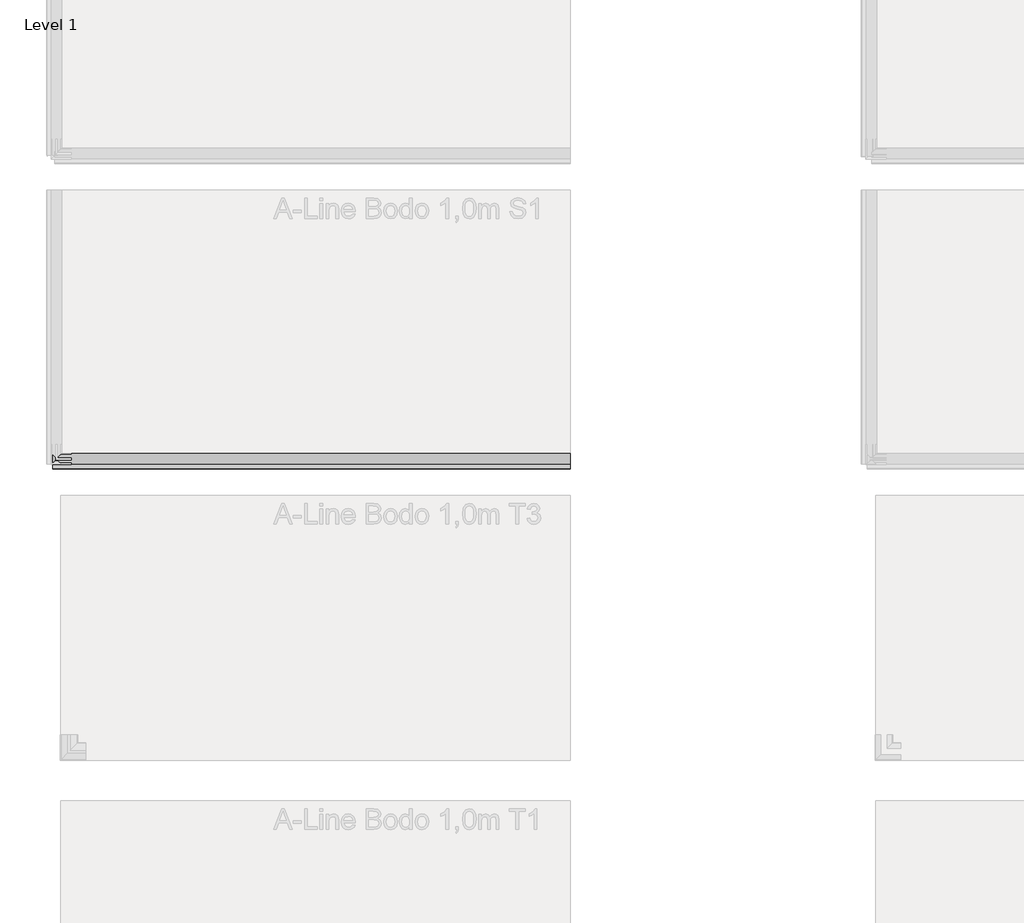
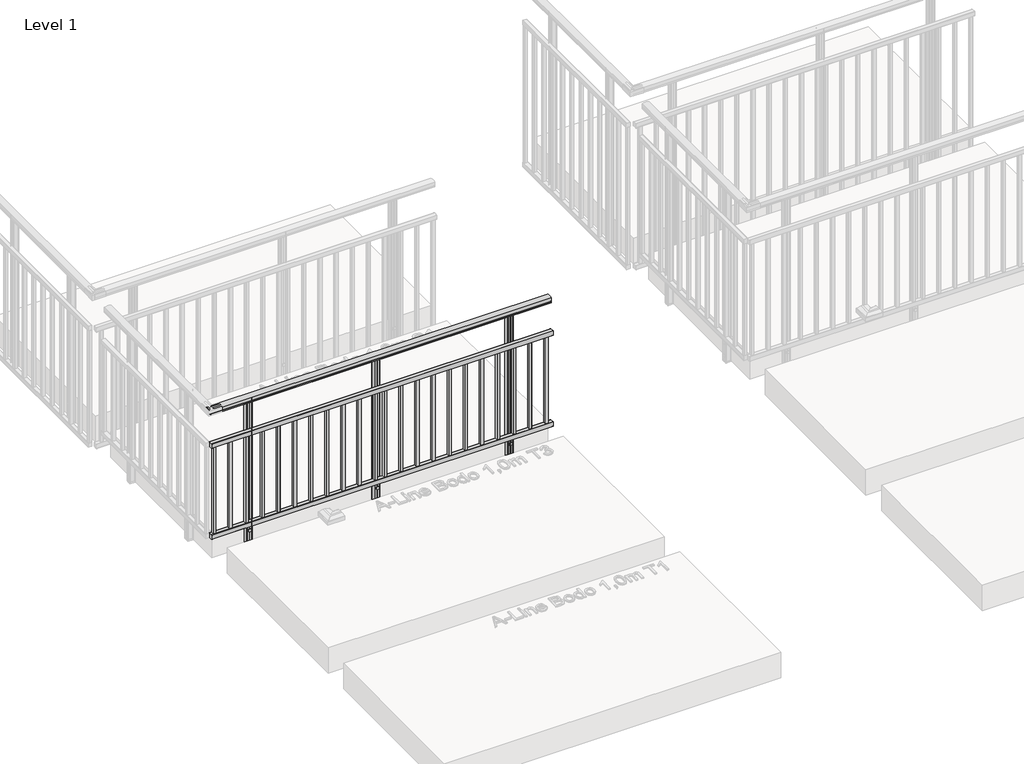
# One storey, part 2 of 66: 1 railing.
"""IFC4 building model written with IfcOpenShell, lengths in millimetres."""

from ifc_helpers import new_model, si_unit, point, frame, frame_2d, origin, place, context, project, spatial, polyline, circle_curve, trimmed, segment, composite_curve, outline, extrude, element, save

model = new_model("IFC4")

# Units and contexts
model_context = context("Model", 3, world=origin())
ifc_project = project(units=[si_unit("LENGTHUNIT", "METRE", prefix="MILLI")], contexts=[model_context])

# Site, building, storey
site = spatial("IfcSite", under=ifc_project)
building = spatial("IfcBuilding", under=site)
storey = spatial("IfcBuildingStorey", under=building, Name="Level 1", Elevation=0.0)

# Railing
placement = place(None, origin())
element("IfcRailing", 1, ObjectType="A-Line Bodo 1,0m S1", at=placement, inside=storey, context=model_context, shape_type="SweptSolid", body=[
    extrude(outline(composite_curve([segment(polyline([(-17565.1717719, 994.1390059), (-17565.1717719, 967.1990555), (-17565.7865549, 966.5842725), (-17565.1717719, 965.9694895), (-17565.1717719, 957.2498847), (-17566.9315805, 957.2498847), (-17566.9315805, 980.4998829), (-17613.9266266, 980.4998829), (-17613.9266266, 957.2498847), (-17615.7315795, 957.2498847), (-17615.7315795, 965.8194895), (-17615.1094985, 966.4415706), (-17615.6914302, 967.0235023), (-17615.6914302, 994.1342258)]), True, "CONTINUOUS"), segment(trimmed(circle_curve(frame_2d((-17590.4267322, 942.6785502)), 57.3235687), [point((-17615.6914302, 994.1342258))], [point((-17565.1717719, 994.1390059))], False, "CARTESIAN"), True, "CONTINUOUS")], self_intersect=False)), frame((4464.0547322, 0.0, 0.0), z_axis=(1.0, 0.0, 0.0), x_axis=(0.0, 1.0, 0.0)), (0.0, 0.0, 1.0), 2540.0),
    extrude(outline(composite_curve([segment(trimmed(circle_curve(frame_2d((-17638.2613559, 749.0)), 1.0), [point((-17639.2613559, 749.0))], [point((-17638.2613559, 750.0))], False, "CARTESIAN"), True, "CONTINUOUS"), segment(polyline([(-17638.2613559, 750.0), (-17611.1613559, 750.0)]), True, "CONTINUOUS"), segment(trimmed(circle_curve(frame_2d((-17611.1613559, 749.0)), 1.0), [point((-17611.1613559, 750.0))], [point((-17610.1613559, 749.0))], False, "CARTESIAN"), True, "CONTINUOUS"), segment(polyline([(-17610.1613559, 749.0), (-17610.1613559, 716.8)]), True, "CONTINUOUS"), segment(trimmed(circle_curve(frame_2d((-17611.1613559, 716.8)), 1.0), [point((-17610.1613559, 716.8))], [point((-17611.1613559, 715.8))], False, "CARTESIAN"), True, "CONTINUOUS"), segment(polyline([(-17611.1613559, 715.8), (-17638.2613559, 715.8)]), True, "CONTINUOUS"), segment(trimmed(circle_curve(frame_2d((-17638.2613559, 716.8)), 1.0), [point((-17638.2613559, 715.8))], [point((-17639.2613559, 716.8))], False, "CARTESIAN"), True, "CONTINUOUS"), segment(polyline([(-17639.2613559, 716.8), (-17639.2613559, 749.0)]), True, "CONTINUOUS")], self_intersect=False)), frame((4464.0547322, 0.0, 0.0), z_axis=(1.0, 0.0, 0.0), x_axis=(0.0, 1.0, 0.0)), (0.0, 0.0, 1.0), 2540.0),
    extrude(outline(composite_curve([segment(polyline([(-17638.2613559, 34.2), (-17611.1613559, 34.2)]), True, "CONTINUOUS"), segment(trimmed(circle_curve(frame_2d((-17611.1613559, 33.2)), 1.0), [point((-17611.1613559, 34.2))], [point((-17610.1613559, 33.2))], False, "CARTESIAN"), True, "CONTINUOUS"), segment(polyline([(-17610.1613559, 33.2), (-17610.1613559, 1.0)]), True, "CONTINUOUS"), segment(trimmed(circle_curve(frame_2d((-17611.1613559, 1.0)), 1.0), [point((-17610.1613559, 1.0))], [point((-17611.1613559, 0.0))], False, "CARTESIAN"), True, "CONTINUOUS"), segment(polyline([(-17611.1613559, 0.0), (-17638.2613559, 0.0)]), True, "CONTINUOUS"), segment(trimmed(circle_curve(frame_2d((-17638.2613559, 1.0)), 1.0), [point((-17638.2613559, 0.0))], [point((-17639.2613559, 1.0))], False, "CARTESIAN"), True, "CONTINUOUS"), segment(polyline([(-17639.2613559, 1.0), (-17639.2613559, 33.2)]), True, "CONTINUOUS"), segment(trimmed(circle_curve(frame_2d((-17638.2613559, 33.2)), 1.0), [point((-17639.2613559, 33.2))], [point((-17638.2613559, 34.2))], False, "CARTESIAN"), True, "CONTINUOUS")], self_intersect=False)), frame((4464.0547322, 0.0, 0.0), z_axis=(1.0, 0.0, 0.0), x_axis=(0.0, 1.0, 0.0)), (0.0, 0.0, 1.0), 2540.0),
    extrude(outline(polyline([(6949.0547322, -17634.7113559), (6949.0547322, -17614.7113559), (6969.0547322, -17614.7113559), (6969.0547322, -17634.7113559), (6949.0547322, -17634.7113559)]), holes=[polyline([(6951.0547322, -17632.7113559), (6967.0547322, -17632.7113559), (6967.0547322, -17616.7113559), (6951.0547322, -17616.7113559), (6951.0547322, -17632.7113559)])]), frame((0.0, 0.0, 34.0), z_axis=(0.0, 0.0, 1.0), x_axis=(1.0, 0.0, 0.0)), (0.0, 0.0, 1.0), 682.0),
    extrude(outline(polyline([(6829.0547322, -17634.7113559), (6829.0547322, -17614.7113559), (6849.0547322, -17614.7113559), (6849.0547322, -17634.7113559), (6829.0547322, -17634.7113559)]), holes=[polyline([(6831.0547322, -17632.7113559), (6847.0547322, -17632.7113559), (6847.0547322, -17616.7113559), (6831.0547322, -17616.7113559), (6831.0547322, -17632.7113559)])]), frame((0.0, 0.0, 34.0), z_axis=(0.0, 0.0, 1.0), x_axis=(1.0, 0.0, 0.0)), (0.0, 0.0, 1.0), 682.0),
    extrude(outline(polyline([(6709.0547322, -17634.7113559), (6709.0547322, -17614.7113559), (6729.0547322, -17614.7113559), (6729.0547322, -17634.7113559), (6709.0547322, -17634.7113559)]), holes=[polyline([(6711.0547322, -17632.7113559), (6727.0547322, -17632.7113559), (6727.0547322, -17616.7113559), (6711.0547322, -17616.7113559), (6711.0547322, -17632.7113559)])]), frame((0.0, 0.0, 34.0), z_axis=(0.0, 0.0, 1.0), x_axis=(1.0, 0.0, 0.0)), (0.0, 0.0, 1.0), 682.0),
    extrude(outline(polyline([(6589.0547322, -17634.7113559), (6589.0547322, -17614.7113559), (6609.0547322, -17614.7113559), (6609.0547322, -17634.7113559), (6589.0547322, -17634.7113559)]), holes=[polyline([(6591.0547322, -17632.7113559), (6607.0547322, -17632.7113559), (6607.0547322, -17616.7113559), (6591.0547322, -17616.7113559), (6591.0547322, -17632.7113559)])]), frame((0.0, 0.0, 34.0), z_axis=(0.0, 0.0, 1.0), x_axis=(1.0, 0.0, 0.0)), (0.0, 0.0, 1.0), 682.0),
    extrude(outline(polyline([(6469.0547322, -17634.7113559), (6469.0547322, -17614.7113559), (6489.0547322, -17614.7113559), (6489.0547322, -17634.7113559), (6469.0547322, -17634.7113559)]), holes=[polyline([(6471.0547322, -17632.7113559), (6487.0547322, -17632.7113559), (6487.0547322, -17616.7113559), (6471.0547322, -17616.7113559), (6471.0547322, -17632.7113559)])]), frame((0.0, 0.0, 34.0), z_axis=(0.0, 0.0, 1.0), x_axis=(1.0, 0.0, 0.0)), (0.0, 0.0, 1.0), 682.0),
    extrude(outline(polyline([(6349.0547322, -17634.7113559), (6349.0547322, -17614.7113559), (6369.0547322, -17614.7113559), (6369.0547322, -17634.7113559), (6349.0547322, -17634.7113559)]), holes=[polyline([(6351.0547322, -17632.7113559), (6367.0547322, -17632.7113559), (6367.0547322, -17616.7113559), (6351.0547322, -17616.7113559), (6351.0547322, -17632.7113559)])]), frame((0.0, 0.0, 34.0), z_axis=(0.0, 0.0, 1.0), x_axis=(1.0, 0.0, 0.0)), (0.0, 0.0, 1.0), 682.0),
    extrude(outline(polyline([(6229.0547322, -17634.7113559), (6229.0547322, -17614.7113559), (6249.0547322, -17614.7113559), (6249.0547322, -17634.7113559), (6229.0547322, -17634.7113559)]), holes=[polyline([(6231.0547322, -17632.7113559), (6247.0547322, -17632.7113559), (6247.0547322, -17616.7113559), (6231.0547322, -17616.7113559), (6231.0547322, -17632.7113559)])]), frame((0.0, 0.0, 34.0), z_axis=(0.0, 0.0, 1.0), x_axis=(1.0, 0.0, 0.0)), (0.0, 0.0, 1.0), 682.0),
    extrude(outline(polyline([(6109.0547322, -17634.7113559), (6109.0547322, -17614.7113559), (6129.0547322, -17614.7113559), (6129.0547322, -17634.7113559), (6109.0547322, -17634.7113559)]), holes=[polyline([(6111.0547322, -17632.7113559), (6127.0547322, -17632.7113559), (6127.0547322, -17616.7113559), (6111.0547322, -17616.7113559), (6111.0547322, -17632.7113559)])]), frame((0.0, 0.0, 34.0), z_axis=(0.0, 0.0, 1.0), x_axis=(1.0, 0.0, 0.0)), (0.0, 0.0, 1.0), 682.0),
    extrude(outline(polyline([(5989.0547322, -17634.7113559), (5989.0547322, -17614.7113559), (6009.0547322, -17614.7113559), (6009.0547322, -17634.7113559), (5989.0547322, -17634.7113559)]), holes=[polyline([(5991.0547322, -17632.7113559), (6007.0547322, -17632.7113559), (6007.0547322, -17616.7113559), (5991.0547322, -17616.7113559), (5991.0547322, -17632.7113559)])]), frame((0.0, 0.0, 34.0), z_axis=(0.0, 0.0, 1.0), x_axis=(1.0, 0.0, 0.0)), (0.0, 0.0, 1.0), 682.0),
    extrude(outline(polyline([(5869.0547322, -17634.7113559), (5869.0547322, -17614.7113559), (5889.0547322, -17614.7113559), (5889.0547322, -17634.7113559), (5869.0547322, -17634.7113559)]), holes=[polyline([(5871.0547322, -17632.7113559), (5887.0547322, -17632.7113559), (5887.0547322, -17616.7113559), (5871.0547322, -17616.7113559), (5871.0547322, -17632.7113559)])]), frame((0.0, 0.0, 34.0), z_axis=(0.0, 0.0, 1.0), x_axis=(1.0, 0.0, 0.0)), (0.0, 0.0, 1.0), 682.0),
    extrude(outline(polyline([(5749.0547322, -17634.7113559), (5749.0547322, -17614.7113559), (5769.0547322, -17614.7113559), (5769.0547322, -17634.7113559), (5749.0547322, -17634.7113559)]), holes=[polyline([(5751.0547322, -17632.7113559), (5767.0547322, -17632.7113559), (5767.0547322, -17616.7113559), (5751.0547322, -17616.7113559), (5751.0547322, -17632.7113559)])]), frame((0.0, 0.0, 34.0), z_axis=(0.0, 0.0, 1.0), x_axis=(1.0, 0.0, 0.0)), (0.0, 0.0, 1.0), 682.0),
    extrude(outline(polyline([(5679.0547322, -17634.7113559), (5679.0547322, -17614.7113559), (5699.0547322, -17614.7113559), (5699.0547322, -17634.7113559), (5679.0547322, -17634.7113559)]), holes=[polyline([(5681.0547322, -17632.7113559), (5697.0547322, -17632.7113559), (5697.0547322, -17616.7113559), (5681.0547322, -17616.7113559), (5681.0547322, -17632.7113559)])]), frame((0.0, 0.0, 34.0), z_axis=(0.0, 0.0, 1.0), x_axis=(1.0, 0.0, 0.0)), (0.0, 0.0, 1.0), 682.0),
    extrude(outline(polyline([(5559.0547322, -17634.7113559), (5559.0547322, -17614.7113559), (5579.0547322, -17614.7113559), (5579.0547322, -17634.7113559), (5559.0547322, -17634.7113559)]), holes=[polyline([(5561.0547322, -17632.7113559), (5577.0547322, -17632.7113559), (5577.0547322, -17616.7113559), (5561.0547322, -17616.7113559), (5561.0547322, -17632.7113559)])]), frame((0.0, 0.0, 34.0), z_axis=(0.0, 0.0, 1.0), x_axis=(1.0, 0.0, 0.0)), (0.0, 0.0, 1.0), 682.0),
    extrude(outline(polyline([(5439.0547322, -17634.7113559), (5439.0547322, -17614.7113559), (5459.0547322, -17614.7113559), (5459.0547322, -17634.7113559), (5439.0547322, -17634.7113559)]), holes=[polyline([(5441.0547322, -17632.7113559), (5457.0547322, -17632.7113559), (5457.0547322, -17616.7113559), (5441.0547322, -17616.7113559), (5441.0547322, -17632.7113559)])]), frame((0.0, 0.0, 34.0), z_axis=(0.0, 0.0, 1.0), x_axis=(1.0, 0.0, 0.0)), (0.0, 0.0, 1.0), 682.0),
    extrude(outline(polyline([(5319.0547322, -17634.7113559), (5319.0547322, -17614.7113559), (5339.0547322, -17614.7113559), (5339.0547322, -17634.7113559), (5319.0547322, -17634.7113559)]), holes=[polyline([(5321.0547322, -17632.7113559), (5337.0547322, -17632.7113559), (5337.0547322, -17616.7113559), (5321.0547322, -17616.7113559), (5321.0547322, -17632.7113559)])]), frame((0.0, 0.0, 34.0), z_axis=(0.0, 0.0, 1.0), x_axis=(1.0, 0.0, 0.0)), (0.0, 0.0, 1.0), 682.0),
    extrude(outline(polyline([(5199.0547322, -17634.7113559), (5199.0547322, -17614.7113559), (5219.0547322, -17614.7113559), (5219.0547322, -17634.7113559), (5199.0547322, -17634.7113559)]), holes=[polyline([(5201.0547322, -17632.7113559), (5217.0547322, -17632.7113559), (5217.0547322, -17616.7113559), (5201.0547322, -17616.7113559), (5201.0547322, -17632.7113559)])]), frame((0.0, 0.0, 34.0), z_axis=(0.0, 0.0, 1.0), x_axis=(1.0, 0.0, 0.0)), (0.0, 0.0, 1.0), 682.0),
    extrude(outline(polyline([(5079.0547322, -17634.7113559), (5079.0547322, -17614.7113559), (5099.0547322, -17614.7113559), (5099.0547322, -17634.7113559), (5079.0547322, -17634.7113559)]), holes=[polyline([(5081.0547322, -17632.7113559), (5097.0547322, -17632.7113559), (5097.0547322, -17616.7113559), (5081.0547322, -17616.7113559), (5081.0547322, -17632.7113559)])]), frame((0.0, 0.0, 34.0), z_axis=(0.0, 0.0, 1.0), x_axis=(1.0, 0.0, 0.0)), (0.0, 0.0, 1.0), 682.0),
    extrude(outline(polyline([(4959.0547322, -17634.7113559), (4959.0547322, -17614.7113559), (4979.0547322, -17614.7113559), (4979.0547322, -17634.7113559), (4959.0547322, -17634.7113559)]), holes=[polyline([(4961.0547322, -17632.7113559), (4977.0547322, -17632.7113559), (4977.0547322, -17616.7113559), (4961.0547322, -17616.7113559), (4961.0547322, -17632.7113559)])]), frame((0.0, 0.0, 34.0), z_axis=(0.0, 0.0, 1.0), x_axis=(1.0, 0.0, 0.0)), (0.0, 0.0, 1.0), 682.0),
    extrude(outline(polyline([(4839.0547322, -17634.7113559), (4839.0547322, -17614.7113559), (4859.0547322, -17614.7113559), (4859.0547322, -17634.7113559), (4839.0547322, -17634.7113559)]), holes=[polyline([(4841.0547322, -17632.7113559), (4857.0547322, -17632.7113559), (4857.0547322, -17616.7113559), (4841.0547322, -17616.7113559), (4841.0547322, -17632.7113559)])]), frame((0.0, 0.0, 34.0), z_axis=(0.0, 0.0, 1.0), x_axis=(1.0, 0.0, 0.0)), (0.0, 0.0, 1.0), 682.0),
    extrude(outline(polyline([(4719.0547322, -17634.7113559), (4719.0547322, -17614.7113559), (4739.0547322, -17614.7113559), (4739.0547322, -17634.7113559), (4719.0547322, -17634.7113559)]), holes=[polyline([(4721.0547322, -17632.7113559), (4737.0547322, -17632.7113559), (4737.0547322, -17616.7113559), (4721.0547322, -17616.7113559), (4721.0547322, -17632.7113559)])]), frame((0.0, 0.0, 34.0), z_axis=(0.0, 0.0, 1.0), x_axis=(1.0, 0.0, 0.0)), (0.0, 0.0, 1.0), 682.0),
    extrude(outline(polyline([(4599.0547322, -17634.7113559), (4599.0547322, -17614.7113559), (4619.0547322, -17614.7113559), (4619.0547322, -17634.7113559), (4599.0547322, -17634.7113559)]), holes=[polyline([(4601.0547322, -17632.7113559), (4617.0547322, -17632.7113559), (4617.0547322, -17616.7113559), (4601.0547322, -17616.7113559), (4601.0547322, -17632.7113559)])]), frame((0.0, 0.0, 34.0), z_axis=(0.0, 0.0, 1.0), x_axis=(1.0, 0.0, 0.0)), (0.0, 0.0, 1.0), 682.0),
    extrude(outline(polyline([(4479.0547322, -17634.7113559), (4479.0547322, -17614.7113559), (4499.0547322, -17614.7113559), (4499.0547322, -17634.7113559), (4479.0547322, -17634.7113559)]), holes=[polyline([(4481.0547322, -17632.7113559), (4497.0547322, -17632.7113559), (4497.0547322, -17616.7113559), (4481.0547322, -17616.7113559), (4481.0547322, -17632.7113559)])]), frame((0.0, 0.0, 34.0), z_axis=(0.0, 0.0, 1.0), x_axis=(1.0, 0.0, 0.0)), (0.0, 0.0, 1.0), 682.0),
    extrude(outline(composite_curve([segment(polyline([(5714.8575193, -17569.7113559), (5731.8808192, -17569.7113559)]), True, "CONTINUOUS"), segment(trimmed(circle_curve(frame_2d((5731.8808192, -17571.885269)), 2.173913), [point((5731.8808192, -17569.7113559))], [point((5734.0547322, -17571.885269))], False, "CARTESIAN"), True, "CONTINUOUS"), segment(polyline([(5734.0547322, -17571.885269), (5734.0547322, -17607.5374429)]), True, "CONTINUOUS"), segment(trimmed(circle_curve(frame_2d((5731.8808192, -17607.5374429)), 2.173913), [point((5734.0547322, -17607.5374429))], [point((5731.8808192, -17609.7113559))], False, "CARTESIAN"), True, "CONTINUOUS"), segment(polyline([(5731.8808192, -17609.7113559), (5714.8225694, -17609.676406), (5714.0547322, -17608.9085689), (5713.2868951, -17609.676406), (5696.2286453, -17609.7113559)]), True, "CONTINUOUS"), segment(trimmed(circle_curve(frame_2d((5696.2286453, -17607.5374429)), 2.173913), [point((5696.2286453, -17609.7113559))], [point((5694.0547322, -17607.5374429))], False, "CARTESIAN"), True, "CONTINUOUS"), segment(polyline([(5694.0547322, -17607.5374429), (5694.0547322, -17571.885269)]), True, "CONTINUOUS"), segment(trimmed(circle_curve(frame_2d((5696.2286453, -17571.885269)), 2.173913), [point((5694.0547322, -17571.885269))], [point((5696.2286452, -17569.7113559))], False, "CARTESIAN"), True, "CONTINUOUS"), segment(polyline([(5696.2286452, -17569.7113559), (5713.2868951, -17569.7463058), (5714.0547322, -17570.5141429), (5714.8575193, -17569.7113559)]), True, "CONTINUOUS")], self_intersect=False)), frame((0.0, 0.0, -200.0), z_axis=(0.0, 0.0, 1.0), x_axis=(1.0, 0.0, 0.0)), (0.0, 0.0, 1.0), 10.0),
    extrude(outline(composite_curve([segment(trimmed(circle_curve(frame_2d((5696.2286453, -17571.885269)), 2.173913), [point((5694.0547322, -17571.885269))], [point((5696.2286453, -17569.7113559))], False, "CARTESIAN"), True, "CONTINUOUS"), segment(polyline([(5696.2286453, -17569.7113559), (5713.2868951, -17569.7463058), (5714.185167, -17570.1143102), (5714.9530042, -17569.7113559), (5731.8808192, -17569.7113559)]), True, "CONTINUOUS"), segment(trimmed(circle_curve(frame_2d((5731.8808192, -17571.885269)), 2.173913), [point((5731.8808192, -17569.7113559))], [point((5734.0547322, -17571.885269))], False, "CARTESIAN"), True, "CONTINUOUS"), segment(polyline([(5734.0547322, -17571.885269), (5734.0547322, -17607.5374429)]), True, "CONTINUOUS"), segment(trimmed(circle_curve(frame_2d((5731.8808192, -17607.5374429)), 2.173913), [point((5734.0547322, -17607.5374429))], [point((5731.8808192, -17609.7113559))], False, "CARTESIAN"), True, "CONTINUOUS"), segment(polyline([(5731.8808192, -17609.7113559), (5714.8225694, -17609.676406), (5714.0547322, -17608.9085689), (5713.2868951, -17609.676406), (5696.2286453, -17609.7113559)]), True, "CONTINUOUS"), segment(trimmed(circle_curve(frame_2d((5696.2286453, -17607.5374429)), 2.173913), [point((5696.2286453, -17609.7113559))], [point((5694.0547322, -17607.5374429))], False, "CARTESIAN"), True, "CONTINUOUS"), segment(polyline([(5694.0547322, -17607.5374429), (5694.0547322, -17571.885269)]), True, "CONTINUOUS")], self_intersect=False), holes=[composite_curve([segment(polyline([(5697.5329931, -17574.059182), (5697.5329931, -17605.3635298)]), True, "CONTINUOUS"), segment(trimmed(circle_curve(frame_2d((5698.4025583, -17605.3635298)), 0.8695652), [point((5697.5329931, -17605.3635298))], [point((5698.4025583, -17606.233095))], True, "CARTESIAN"), True, "CONTINUOUS"), segment(polyline([(5698.4025583, -17606.233095), (5729.7069062, -17606.233095)]), True, "CONTINUOUS"), segment(trimmed(circle_curve(frame_2d((5729.7069062, -17605.3635298)), 0.8695652), [point((5729.7069062, -17606.233095))], [point((5730.5764714, -17605.3635298))], True, "CARTESIAN"), True, "CONTINUOUS"), segment(polyline([(5730.5764714, -17605.3635298), (5730.5764714, -17574.059182)]), True, "CONTINUOUS"), segment(trimmed(circle_curve(frame_2d((5729.7069062, -17574.059182)), 0.8695652), [point((5730.5764714, -17574.059182))], [point((5729.7069062, -17573.1896168))], True, "CARTESIAN"), True, "CONTINUOUS"), segment(polyline([(5729.7069062, -17573.1896168), (5698.4025583, -17573.1896168)]), True, "CONTINUOUS"), segment(trimmed(circle_curve(frame_2d((5698.4025583, -17574.059182)), 0.8695652), [point((5698.4025583, -17573.1896168))], [point((5697.5329931, -17574.059182))], True, "CARTESIAN"), True, "CONTINUOUS")], self_intersect=False)]), frame((0.0, 0.0, -190.0), z_axis=(0.0, 0.0, 1.0), x_axis=(1.0, 0.0, 0.0)), (0.0, 0.0, 1.0), 1170.0),
    extrude(outline(composite_curve([segment(trimmed(circle_curve(frame_2d((0.0, 12.0)), 12.0), [point((0.0, 23.9999999))], [point((0.0, 0.0))], False, "CARTESIAN"), True, "CONTINUOUS"), segment(trimmed(circle_curve(frame_2d((0.0, 12.0)), 12.0), [point((0.0, 0.0))], [point((0.0, 23.9999999))], False, "CARTESIAN"), True, "CONTINUOUS")], self_intersect=False)), frame((5702.0444554, -17612.7751851, -151.0), z_axis=(0.00040291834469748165, 0.9999999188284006, 0.0), x_axis=(0.0, 0.0, 1.0)), (0.0, 0.0, 1.0), 3.0757477),
    extrude(outline(composite_curve([segment(trimmed(circle_curve(frame_2d((0.0, 12.0)), 12.0), [point((0.0, 23.9999999))], [point((0.0, 0.0))], False, "CARTESIAN"), True, "CONTINUOUS"), segment(trimmed(circle_curve(frame_2d((0.0, 12.0)), 12.0), [point((0.0, 0.0))], [point((0.0, 23.9999999))], False, "CARTESIAN"), True, "CONTINUOUS")], self_intersect=False)), frame((5702.0444554, -17612.7751851, -50.0), z_axis=(0.00040291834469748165, 0.9999999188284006, 0.0), x_axis=(0.0, 0.0, 1.0)), (0.0, 0.0, 1.0), 3.0757477),
    extrude(outline(composite_curve([segment(polyline([(6704.8575193, -17569.7113559), (6721.8808192, -17569.7113559)]), True, "CONTINUOUS"), segment(trimmed(circle_curve(frame_2d((6721.8808192, -17571.885269)), 2.173913), [point((6721.8808192, -17569.7113559))], [point((6724.0547322, -17571.885269))], False, "CARTESIAN"), True, "CONTINUOUS"), segment(polyline([(6724.0547322, -17571.885269), (6724.0547322, -17607.5374429)]), True, "CONTINUOUS"), segment(trimmed(circle_curve(frame_2d((6721.8808192, -17607.5374429)), 2.173913), [point((6724.0547322, -17607.5374429))], [point((6721.8808192, -17609.7113559))], False, "CARTESIAN"), True, "CONTINUOUS"), segment(polyline([(6721.8808192, -17609.7113559), (6704.8225694, -17609.676406), (6704.0547322, -17608.9085689), (6703.2868951, -17609.676406), (6686.2286453, -17609.7113559)]), True, "CONTINUOUS"), segment(trimmed(circle_curve(frame_2d((6686.2286453, -17607.5374429)), 2.173913), [point((6686.2286453, -17609.7113559))], [point((6684.0547322, -17607.5374429))], False, "CARTESIAN"), True, "CONTINUOUS"), segment(polyline([(6684.0547322, -17607.5374429), (6684.0547322, -17571.885269)]), True, "CONTINUOUS"), segment(trimmed(circle_curve(frame_2d((6686.2286453, -17571.885269)), 2.173913), [point((6684.0547322, -17571.885269))], [point((6686.2286452, -17569.7113559))], False, "CARTESIAN"), True, "CONTINUOUS"), segment(polyline([(6686.2286452, -17569.7113559), (6703.2868951, -17569.7463058), (6704.0547322, -17570.5141429), (6704.8575193, -17569.7113559)]), True, "CONTINUOUS")], self_intersect=False)), frame((0.0, 0.0, -200.0), z_axis=(0.0, 0.0, 1.0), x_axis=(1.0, 0.0, 0.0)), (0.0, 0.0, 1.0), 10.0),
    extrude(outline(composite_curve([segment(trimmed(circle_curve(frame_2d((6686.2286453, -17571.885269)), 2.173913), [point((6684.0547322, -17571.885269))], [point((6686.2286453, -17569.7113559))], False, "CARTESIAN"), True, "CONTINUOUS"), segment(polyline([(6686.2286453, -17569.7113559), (6703.2868951, -17569.7463058), (6704.185167, -17570.1143102), (6704.9530042, -17569.7113559), (6721.8808192, -17569.7113559)]), True, "CONTINUOUS"), segment(trimmed(circle_curve(frame_2d((6721.8808192, -17571.885269)), 2.173913), [point((6721.8808192, -17569.7113559))], [point((6724.0547322, -17571.885269))], False, "CARTESIAN"), True, "CONTINUOUS"), segment(polyline([(6724.0547322, -17571.885269), (6724.0547322, -17607.5374429)]), True, "CONTINUOUS"), segment(trimmed(circle_curve(frame_2d((6721.8808192, -17607.5374429)), 2.173913), [point((6724.0547322, -17607.5374429))], [point((6721.8808192, -17609.7113559))], False, "CARTESIAN"), True, "CONTINUOUS"), segment(polyline([(6721.8808192, -17609.7113559), (6704.8225694, -17609.676406), (6704.0547322, -17608.9085689), (6703.2868951, -17609.676406), (6686.2286453, -17609.7113559)]), True, "CONTINUOUS"), segment(trimmed(circle_curve(frame_2d((6686.2286453, -17607.5374429)), 2.173913), [point((6686.2286453, -17609.7113559))], [point((6684.0547322, -17607.5374429))], False, "CARTESIAN"), True, "CONTINUOUS"), segment(polyline([(6684.0547322, -17607.5374429), (6684.0547322, -17571.885269)]), True, "CONTINUOUS")], self_intersect=False), holes=[composite_curve([segment(polyline([(6687.5329931, -17574.059182), (6687.5329931, -17605.3635298)]), True, "CONTINUOUS"), segment(trimmed(circle_curve(frame_2d((6688.4025583, -17605.3635298)), 0.8695652), [point((6687.5329931, -17605.3635298))], [point((6688.4025583, -17606.233095))], True, "CARTESIAN"), True, "CONTINUOUS"), segment(polyline([(6688.4025583, -17606.233095), (6719.7069062, -17606.233095)]), True, "CONTINUOUS"), segment(trimmed(circle_curve(frame_2d((6719.7069062, -17605.3635298)), 0.8695652), [point((6719.7069062, -17606.233095))], [point((6720.5764714, -17605.3635298))], True, "CARTESIAN"), True, "CONTINUOUS"), segment(polyline([(6720.5764714, -17605.3635298), (6720.5764714, -17574.059182)]), True, "CONTINUOUS"), segment(trimmed(circle_curve(frame_2d((6719.7069062, -17574.059182)), 0.8695652), [point((6720.5764714, -17574.059182))], [point((6719.7069062, -17573.1896168))], True, "CARTESIAN"), True, "CONTINUOUS"), segment(polyline([(6719.7069062, -17573.1896168), (6688.4025583, -17573.1896168)]), True, "CONTINUOUS"), segment(trimmed(circle_curve(frame_2d((6688.4025583, -17574.059182)), 0.8695652), [point((6688.4025583, -17573.1896168))], [point((6687.5329931, -17574.059182))], True, "CARTESIAN"), True, "CONTINUOUS")], self_intersect=False)]), frame((0.0, 0.0, -190.0), z_axis=(0.0, 0.0, 1.0), x_axis=(1.0, 0.0, 0.0)), (0.0, 0.0, 1.0), 1171.0),
    extrude(outline(composite_curve([segment(trimmed(circle_curve(frame_2d((0.0, 12.0)), 12.0), [point((0.0, 23.9999999))], [point((0.0, 0.0))], False, "CARTESIAN"), True, "CONTINUOUS"), segment(trimmed(circle_curve(frame_2d((0.0, 12.0)), 12.0), [point((0.0, 0.0))], [point((0.0, 23.9999999))], False, "CARTESIAN"), True, "CONTINUOUS")], self_intersect=False)), frame((6692.0444554, -17612.7751851, -151.0), z_axis=(0.00040291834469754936, 0.9999999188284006, 0.0), x_axis=(0.0, 0.0, 1.0)), (0.0, 0.0, 1.0), 3.0757477),
    extrude(outline(composite_curve([segment(trimmed(circle_curve(frame_2d((0.0, 12.0)), 12.0), [point((0.0, 23.9999999))], [point((0.0, 0.0))], False, "CARTESIAN"), True, "CONTINUOUS"), segment(trimmed(circle_curve(frame_2d((0.0, 12.0)), 12.0), [point((0.0, 0.0))], [point((0.0, 23.9999999))], False, "CARTESIAN"), True, "CONTINUOUS")], self_intersect=False)), frame((6692.0444554, -17612.7751851, -50.0), z_axis=(0.00040291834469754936, 0.9999999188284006, 0.0), x_axis=(0.0, 0.0, 1.0)), (0.0, 0.0, 1.0), 3.0757477),
    extrude(outline(composite_curve([segment(polyline([(4764.8575193, -17569.7113559), (4781.8808192, -17569.7113559)]), True, "CONTINUOUS"), segment(trimmed(circle_curve(frame_2d((4781.8808192, -17571.885269)), 2.173913), [point((4781.8808192, -17569.7113559))], [point((4784.0547322, -17571.885269))], False, "CARTESIAN"), True, "CONTINUOUS"), segment(polyline([(4784.0547322, -17571.885269), (4784.0547322, -17607.5374429)]), True, "CONTINUOUS"), segment(trimmed(circle_curve(frame_2d((4781.8808192, -17607.5374429)), 2.173913), [point((4784.0547322, -17607.5374429))], [point((4781.8808192, -17609.7113559))], False, "CARTESIAN"), True, "CONTINUOUS"), segment(polyline([(4781.8808192, -17609.7113559), (4764.8225694, -17609.676406), (4764.0547322, -17608.9085689), (4763.2868951, -17609.676406), (4746.2286453, -17609.7113559)]), True, "CONTINUOUS"), segment(trimmed(circle_curve(frame_2d((4746.2286453, -17607.5374429)), 2.173913), [point((4746.2286453, -17609.7113559))], [point((4744.0547322, -17607.5374429))], False, "CARTESIAN"), True, "CONTINUOUS"), segment(polyline([(4744.0547322, -17607.5374429), (4744.0547322, -17571.885269)]), True, "CONTINUOUS"), segment(trimmed(circle_curve(frame_2d((4746.2286453, -17571.885269)), 2.173913), [point((4744.0547322, -17571.885269))], [point((4746.2286452, -17569.7113559))], False, "CARTESIAN"), True, "CONTINUOUS"), segment(polyline([(4746.2286452, -17569.7113559), (4763.2868951, -17569.7463058), (4764.0547322, -17570.5141429), (4764.8575193, -17569.7113559)]), True, "CONTINUOUS")], self_intersect=False)), frame((0.0, 0.0, -200.0), z_axis=(0.0, 0.0, 1.0), x_axis=(1.0, 0.0, 0.0)), (0.0, 0.0, 1.0), 10.0),
    extrude(outline(composite_curve([segment(trimmed(circle_curve(frame_2d((4746.2286453, -17571.885269)), 2.173913), [point((4744.0547322, -17571.885269))], [point((4746.2286453, -17569.7113559))], False, "CARTESIAN"), True, "CONTINUOUS"), segment(polyline([(4746.2286453, -17569.7113559), (4763.2868951, -17569.7463058), (4764.185167, -17570.1143102), (4764.9530042, -17569.7113559), (4781.8808192, -17569.7113559)]), True, "CONTINUOUS"), segment(trimmed(circle_curve(frame_2d((4781.8808192, -17571.885269)), 2.173913), [point((4781.8808192, -17569.7113559))], [point((4784.0547322, -17571.885269))], False, "CARTESIAN"), True, "CONTINUOUS"), segment(polyline([(4784.0547322, -17571.885269), (4784.0547322, -17607.5374429)]), True, "CONTINUOUS"), segment(trimmed(circle_curve(frame_2d((4781.8808192, -17607.5374429)), 2.173913), [point((4784.0547322, -17607.5374429))], [point((4781.8808192, -17609.7113559))], False, "CARTESIAN"), True, "CONTINUOUS"), segment(polyline([(4781.8808192, -17609.7113559), (4764.8225694, -17609.676406), (4764.0547322, -17608.9085689), (4763.2868951, -17609.676406), (4746.2286453, -17609.7113559)]), True, "CONTINUOUS"), segment(trimmed(circle_curve(frame_2d((4746.2286453, -17607.5374429)), 2.173913), [point((4746.2286453, -17609.7113559))], [point((4744.0547322, -17607.5374429))], False, "CARTESIAN"), True, "CONTINUOUS"), segment(polyline([(4744.0547322, -17607.5374429), (4744.0547322, -17571.885269)]), True, "CONTINUOUS")], self_intersect=False), holes=[composite_curve([segment(polyline([(4747.5329931, -17574.059182), (4747.5329931, -17605.3635298)]), True, "CONTINUOUS"), segment(trimmed(circle_curve(frame_2d((4748.4025583, -17605.3635298)), 0.8695652), [point((4747.5329931, -17605.3635298))], [point((4748.4025583, -17606.233095))], True, "CARTESIAN"), True, "CONTINUOUS"), segment(polyline([(4748.4025583, -17606.233095), (4779.7069062, -17606.233095)]), True, "CONTINUOUS"), segment(trimmed(circle_curve(frame_2d((4779.7069062, -17605.3635298)), 0.8695652), [point((4779.7069062, -17606.233095))], [point((4780.5764714, -17605.3635298))], True, "CARTESIAN"), True, "CONTINUOUS"), segment(polyline([(4780.5764714, -17605.3635298), (4780.5764714, -17574.059182)]), True, "CONTINUOUS"), segment(trimmed(circle_curve(frame_2d((4779.7069062, -17574.059182)), 0.8695652), [point((4780.5764714, -17574.059182))], [point((4779.7069062, -17573.1896168))], True, "CARTESIAN"), True, "CONTINUOUS"), segment(polyline([(4779.7069062, -17573.1896168), (4748.4025583, -17573.1896168)]), True, "CONTINUOUS"), segment(trimmed(circle_curve(frame_2d((4748.4025583, -17574.059182)), 0.8695652), [point((4748.4025583, -17573.1896168))], [point((4747.5329931, -17574.059182))], True, "CARTESIAN"), True, "CONTINUOUS")], self_intersect=False)]), frame((0.0, 0.0, -190.0), z_axis=(0.0, 0.0, 1.0), x_axis=(1.0, 0.0, 0.0)), (0.0, 0.0, 1.0), 1171.0),
    extrude(outline(composite_curve([segment(trimmed(circle_curve(frame_2d((0.0, 12.0)), 12.0), [point((0.0, 23.9999999))], [point((0.0, 0.0))], False, "CARTESIAN"), True, "CONTINUOUS"), segment(trimmed(circle_curve(frame_2d((0.0, 12.0)), 12.0), [point((0.0, 0.0))], [point((0.0, 23.9999999))], False, "CARTESIAN"), True, "CONTINUOUS")], self_intersect=False)), frame((4752.0444554, -17612.7751851, -151.0), z_axis=(0.00040291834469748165, 0.9999999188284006, 0.0), x_axis=(0.0, 0.0, 1.0)), (0.0, 0.0, 1.0), 3.0757477),
    extrude(outline(composite_curve([segment(trimmed(circle_curve(frame_2d((0.0, 12.0)), 12.0), [point((0.0, 23.9999999))], [point((0.0, 0.0))], False, "CARTESIAN"), True, "CONTINUOUS"), segment(trimmed(circle_curve(frame_2d((0.0, 12.0)), 12.0), [point((0.0, 0.0))], [point((0.0, 23.9999999))], False, "CARTESIAN"), True, "CONTINUOUS")], self_intersect=False)), frame((4752.0444554, -17612.7751851, -50.0), z_axis=(0.00040291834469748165, 0.9999999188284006, 0.0), x_axis=(0.0, 0.0, 1.0)), (0.0, 0.0, 1.0), 3.0757477),
])

save(model, "model.ifc")
